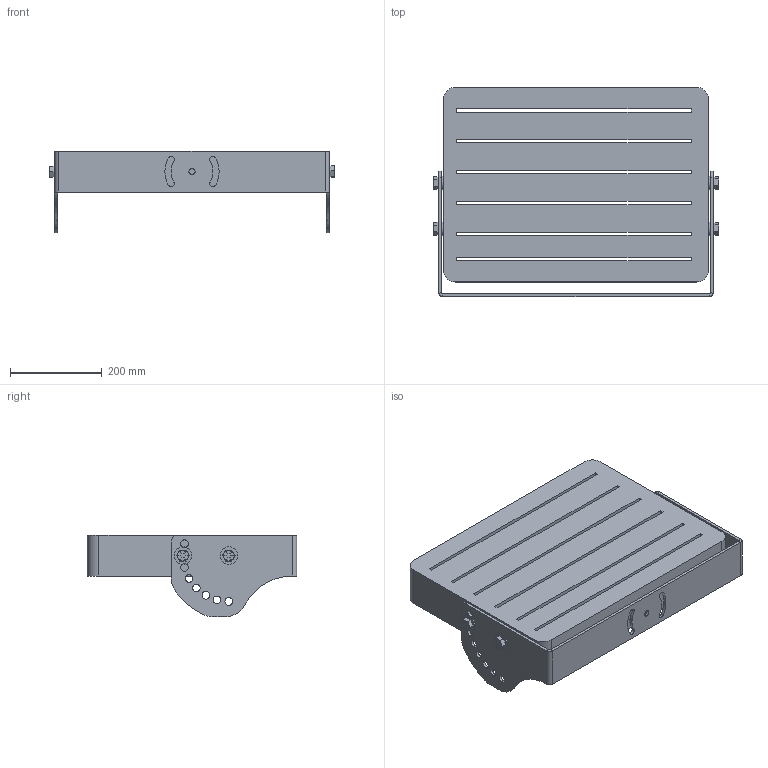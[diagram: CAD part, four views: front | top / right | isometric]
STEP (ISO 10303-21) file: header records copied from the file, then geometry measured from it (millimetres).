
FILE_DESCRIPTION (( 'STEP AP214' ), '1' );
FILE_NAME ('GAU-LTL-500-LED-480V.STEP', '2018-09-13T19:41:44', ( '' ), ( '' ), 'SwSTEP 2.0', 'SolidWorks 2016', '' );
FILE_SCHEMA (( 'AUTOMOTIVE_DESIGN' ));
Length unit declared in the file: inch
Products named in the file (5): 0.625 Screw Washer_FW-0.625; 0.625-11 Hex Head Screw_FS-HH0.625-11-L1.50; Lihgt_GAU-LTL-500W-LED-C; Trunnion3_GAU-LTL-500W-C-ADJUSTABLE; GAU-LTL-500-LED-480V
Assembly tree (10 placements, depth 2):
  GAU-LTL-500-LED-480V
    Trunnion3_GAU-LTL-500W-C-ADJUSTABLE
    Lihgt_GAU-LTL-500W-LED-C
    0.625-11 Hex Head Screw_FS-HH0.625-11-L1.50  x4
    0.625 Screw Washer_FW-0.625  x4
Bounding box: 621.94 x 455.8 x 177.8 mm (x, y, z)
Volume: 19477370.2 mm3; surface area: 1481378.7 mm2
Topology: 10 solids, 10 shells, 525 faces, 1224 edges, 800 vertices
Faces by surface type: cylinder 274, plane 219, cone 32
Entity records: 11569 total; most frequent: DIRECTION 1950, CARTESIAN_POINT 1789, ORIENTED_EDGE 1632, EDGE_CURVE 816, AXIS2_PLACEMENT_3D 785, VERTEX_POINT 536, EDGE_LOOP 464, CIRCLE 424
